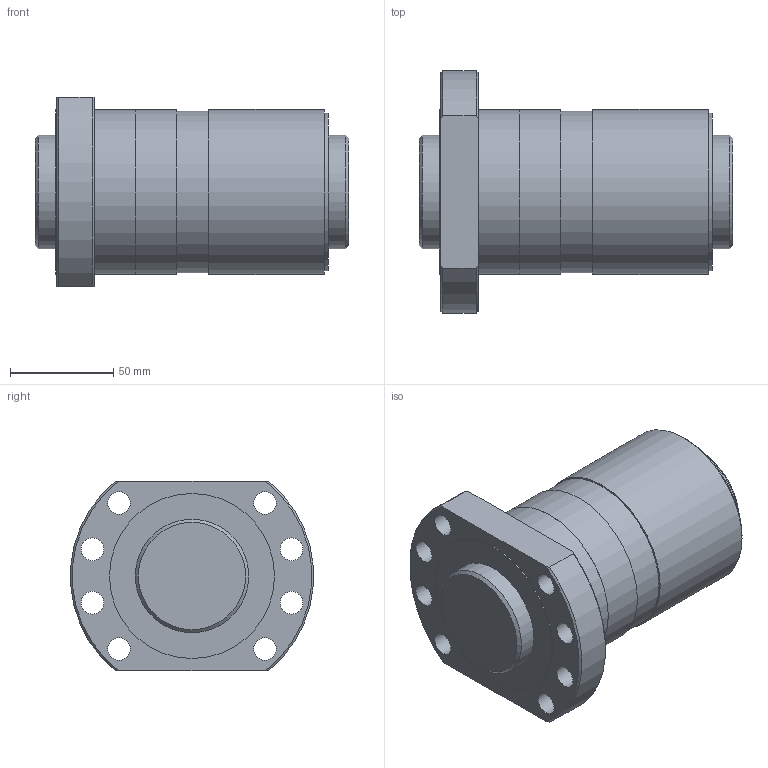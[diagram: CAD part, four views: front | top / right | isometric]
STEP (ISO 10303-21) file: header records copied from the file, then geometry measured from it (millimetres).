
FILE_DESCRIPTION(/* description */ ('STEP AP203'),/* implementation_level */ '2;1');
FILE_NAME(/* name */ 'SDAN5512VX-4G0+152LC0(0G000)',/* time_stamp */ '2024-07-04T10:21:31+02:00',/* author */ ('License CC BY-ND 4.0'),/* organization */ ('CADENAS'),/* preprocessor_version */ 'ST-DEVELOPER v19.3',/* originating_system */ 'PARTsolutions',/* authorisation */ ' ');
FILE_SCHEMA (('CONFIG_CONTROL_DESIGN'));
Length unit declared in the file: millimetre
Products named in the file (3): SDAN5512VX-4G0+152LC0(0G000); 0SDAN5512VX-40Shaft; SDAN5512VX-4_nut
Assembly tree (2 placements, depth 2):
  SDAN5512VX-4G0+152LC0(0G000)
    0SDAN5512VX-40Shaft
    SDAN5512VX-4_nut
Bounding box: 152 x 117.61 x 92 mm (x, y, z)
Volume: 774506 mm3; surface area: 107758.5 mm2
Topology: 2 solids, 2 shells, 41 faces, 95 edges, 65 vertices
Faces by surface type: cylinder 21, plane 13, cone 7
Full cylindrical faces by diameter (mm): 5.2 x1, 6.917 x1, 11 x8, 55 x2, 76.4 x1, 78 x1, 78.4 x1, 80 x4
Entity records: 1143 total; most frequent: CARTESIAN_POINT 208, DIRECTION 188, ORIENTED_EDGE 128, EDGE_LOOP 90, FACE_BOUND 90, AXIS2_PLACEMENT_3D 90, EDGE_CURVE 64, VERTEX_POINT 56
